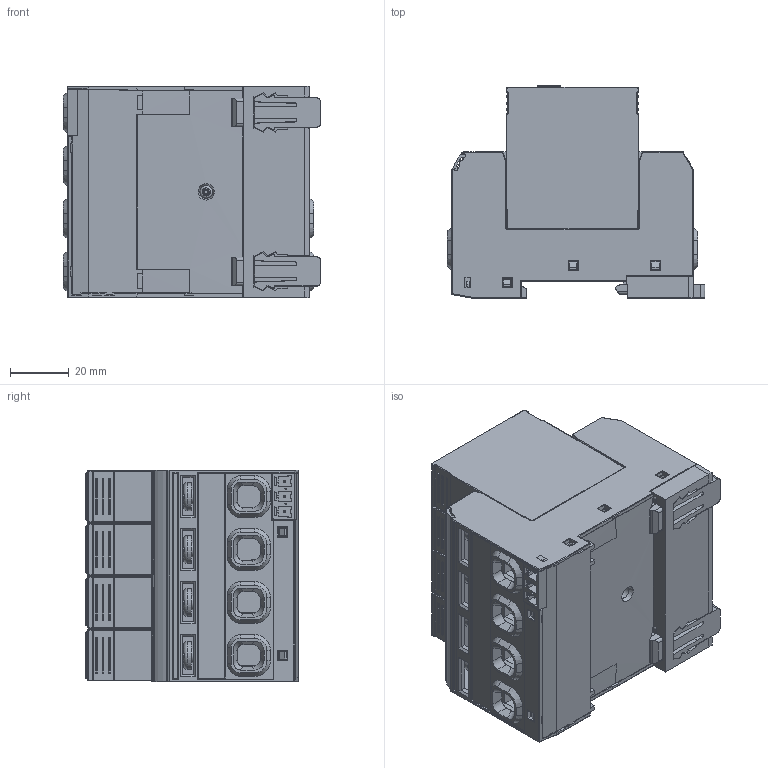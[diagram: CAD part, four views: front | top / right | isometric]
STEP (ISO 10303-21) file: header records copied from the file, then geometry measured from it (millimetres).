
FILE_DESCRIPTION( ( 'Unknown' ), '1' );
FILE_NAME( 'C:/Users/pdellaca/Desktop/Colombo 7P/S 450V 4+0 3+1 --- catalogo 25.stp', 'Unknown', ( 'Unknown' ), ( 'Unknown' ), 'PSStep 15.0.49', 'Unknown', ' ' );
FILE_SCHEMA( ( 'AUTOMOTIVE_DESIGN { 1 0 10303 214 1 1 1 1 }' ) );
Length unit declared in the file: millimetre
Products named in the file (42): top
Bounding box: 87.56 x 72.11 x 71.85 mm (x, y, z)
Volume: 2914.9 mm3; surface area: 71720 mm2
Topology: 4 solids, 1769 shells, 1987 faces, 9348 edges, 9024 vertices
Faces by surface type: plane 1141, cylinder 556, torus 99, cone 78, sphere 70, bspline 27, revolution 14, extrusion 2
Full cylindrical faces by diameter (mm): 4.2 x1, 5 x4, 9.5 x4
Entity records: 110945 total; most frequent: CARTESIAN_POINT 23767, DIRECTION 14915, ORIENTED_EDGE 9848, EDGE_CURVE 9220, VERTEX_POINT 9000, VECTOR 6051, LINE 6049, AXIS2_PLACEMENT_3D 4425
